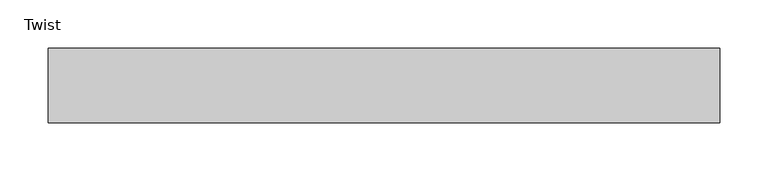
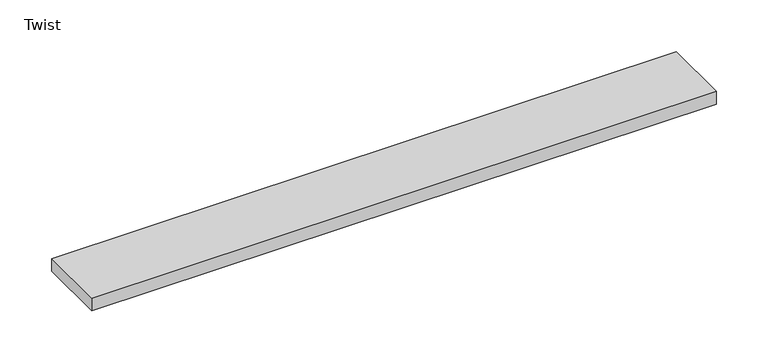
"""IFC4 building model written with IfcOpenShell, lengths in millimetres: sanitary terminal geometry, ZZZ_do not use_PF_UN_grating for ShowerDrain E and M series_ACO : Twist."""

from ifc_helpers import new_model, si_unit, frame, origin, place, context, project, spatial, polyline, outline, extrude, source, transform, mapped, element, save


def twist_c8336379(model_context):
    return source(origin(), model_context, "Body", "SweptSolid", [
        extrude(outline(polyline([(348.0, 38.5), (348.0, -38.5), (-348.0, -38.5), (-348.0, 38.5), (348.0, 38.5)])), frame((0.0, 0.0, -15.0), z_axis=(0.0, 0.0, 1.0), x_axis=(1.0, 0.0, 0.0)), (0.0, 0.0, 1.0), 15.0),
    ])


if __name__ == "__main__":
    model = new_model("IFC4")
    model_context = context("Model", 3, world=origin())
    ifc_project = project(units=[si_unit("LENGTHUNIT", "METRE", prefix="MILLI")], contexts=[model_context])
    site = spatial("IfcSite", under=ifc_project)
    building = spatial("IfcBuilding", under=site)
    placement = place(None, origin())
    twist_shape = twist_c8336379(model_context)
    element("IfcSanitaryTerminal", 1, ObjectType="ZZZ_do not use_PF_UN_grating for ShowerDrain E and M series_ACO : Twist", at=placement, inside=building, context=model_context, shape_type="MappedRepresentation", body=[
        mapped(twist_shape, transform((0.0, 0.0, 0.0), x_axis=(1.0, 0.0, 0.0), y_axis=(0.0, 1.0, 0.0), z_axis=(0.0, 0.0, 1.0))),
    ])
    save(model, "model.ifc")
